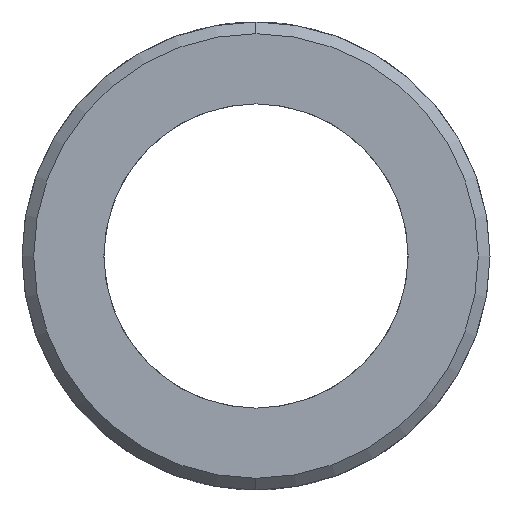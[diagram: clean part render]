
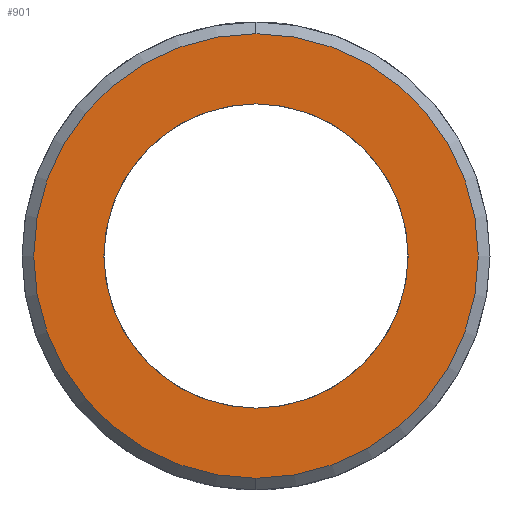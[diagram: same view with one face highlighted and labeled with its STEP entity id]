
A CAD part, left-side view. The second image highlights one B-rep face of the part: STEP entity #901.
In plain terms, the highlighted planar face has unit normal (-1, 0, 0).
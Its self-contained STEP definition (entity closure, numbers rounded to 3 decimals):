
#14 = AXIS2_PLACEMENT_3D ( 'NONE', #811, #294, #915 ) ;
#42 = CARTESIAN_POINT ( 'NONE',  ( -58., 0., 0. ) ) ;
#96 = DIRECTION ( 'NONE',  ( -1., 0., 0. ) ) ;
#97 = ORIENTED_EDGE ( 'NONE', *, *, #786, .T. ) ;
#119 = DIRECTION ( 'NONE',  ( 0., 0., -1. ) ) ;
#123 = EDGE_LOOP ( 'NONE', ( #825, #97 ) ) ;
#125 = CARTESIAN_POINT ( 'NONE',  ( -58., 0., -19. ) ) ;
#243 = CARTESIAN_POINT ( 'NONE',  ( -58., 0., 13. ) ) ;
#248 = ORIENTED_EDGE ( 'NONE', *, *, #734, .F. ) ;
#277 = DIRECTION ( 'NONE',  ( -1., 0., 0. ) ) ;
#294 = DIRECTION ( 'NONE',  ( -1., 0., 0. ) ) ;
#306 = CIRCLE ( 'NONE', #368, 13. ) ;
#346 = AXIS2_PLACEMENT_3D ( 'NONE', #739, #919, #385 ) ;
#368 = AXIS2_PLACEMENT_3D ( 'NONE', #795, #277, #899 ) ;
#385 = DIRECTION ( 'NONE',  ( 0., 0., -1. ) ) ;
#557 = PLANE ( 'NONE',  #346 ) ;
#566 = EDGE_LOOP ( 'NONE', ( #1127, #248 ) ) ;
#603 = CARTESIAN_POINT ( 'NONE',  ( -58., 0., 0. ) ) ;
#606 = EDGE_CURVE ( 'NONE', #830, #703, #824, .T. ) ;
#631 = DIRECTION ( 'NONE',  ( -1., 0., 0. ) ) ;
#659 = AXIS2_PLACEMENT_3D ( 'NONE', #42, #631, #119 ) ;
#695 = DIRECTION ( 'NONE',  ( 0., 0., -1. ) ) ;
#703 = VERTEX_POINT ( 'NONE', #983 ) ;
#734 = EDGE_CURVE ( 'NONE', #979, #1074, #306, .T. ) ;
#739 = CARTESIAN_POINT ( 'NONE',  ( -58., 13., 0. ) ) ;
#786 = EDGE_CURVE ( 'NONE', #703, #830, #963, .T. ) ;
#794 = AXIS2_PLACEMENT_3D ( 'NONE', #603, #96, #695 ) ;
#795 = CARTESIAN_POINT ( 'NONE',  ( -58., 0., 0. ) ) ;
#811 = CARTESIAN_POINT ( 'NONE',  ( -58., 0., 0. ) ) ;
#824 = CIRCLE ( 'NONE', #794, 19. ) ;
#825 = ORIENTED_EDGE ( 'NONE', *, *, #606, .T. ) ;
#830 = VERTEX_POINT ( 'NONE', #125 ) ;
#840 = FACE_OUTER_BOUND ( 'NONE', #123, .T. ) ;
#880 = EDGE_CURVE ( 'NONE', #1074, #979, #1092, .T. ) ;
#899 = DIRECTION ( 'NONE',  ( 0., 0., 1. ) ) ;
#901 = ADVANCED_FACE ( 'NONE', ( #840, #1064 ), #557, .F. ) ;
#915 = DIRECTION ( 'NONE',  ( 0., 0., 1. ) ) ;
#919 = DIRECTION ( 'NONE',  ( 1., 0., 0. ) ) ;
#963 = CIRCLE ( 'NONE', #659, 19. ) ;
#979 = VERTEX_POINT ( 'NONE', #1125 ) ;
#983 = CARTESIAN_POINT ( 'NONE',  ( -58., 0., 19. ) ) ;
#1064 = FACE_BOUND ( 'NONE', #566, .T. ) ;
#1074 = VERTEX_POINT ( 'NONE', #243 ) ;
#1092 = CIRCLE ( 'NONE', #14, 13. ) ;
#1125 = CARTESIAN_POINT ( 'NONE',  ( -58., 0., -13. ) ) ;
#1127 = ORIENTED_EDGE ( 'NONE', *, *, #880, .F. ) ;
